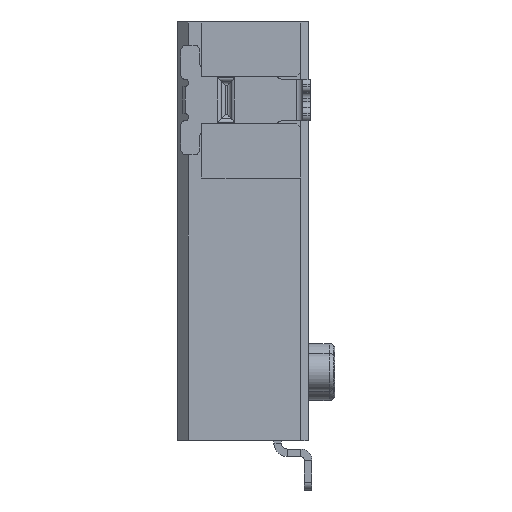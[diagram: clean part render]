
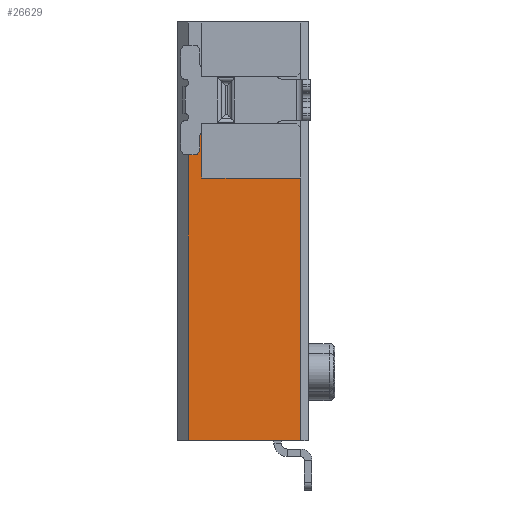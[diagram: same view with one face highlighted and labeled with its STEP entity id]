
A CAD part, left-side view. The second image highlights one B-rep face of the part: STEP entity #26629.
In plain terms, the highlighted planar face has unit normal (-1, 0, 0).
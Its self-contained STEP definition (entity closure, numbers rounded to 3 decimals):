
#586=DIRECTION('',(0.,1.,0.));
#587=VECTOR('',#586,2.95);
#588=CARTESIAN_POINT('',(-18.227,0.396,-5.5));
#589=LINE('',#588,#587);
#7909=DIRECTION('',(0.,0.,-1.));
#7910=VECTOR('',#7909,6.9);
#7911=CARTESIAN_POINT('',(-18.227,0.396,1.4));
#7912=LINE('',#7911,#7910);
#7929=DIRECTION('',(0.,0.784,0.621));
#7930=VECTOR('',#7929,0.054);
#7931=CARTESIAN_POINT('',(-18.227,2.494,2.53));
#7932=LINE('',#7931,#7930);
#7933=DIRECTION('',(0.,-1.,0.));
#7934=VECTOR('',#7933,0.502);
#7935=CARTESIAN_POINT('',(-18.227,2.996,2.53));
#7936=LINE('',#7935,#7934);
#7937=DIRECTION('',(0.,1.,0.));
#7938=VECTOR('',#7937,2.6);
#7939=CARTESIAN_POINT('',(-18.227,0.396,1.4));
#7940=LINE('',#7939,#7938);
#7941=DIRECTION('',(0.,1.,0.));
#7942=VECTOR('',#7941,0.15);
#7943=CARTESIAN_POINT('',(-18.227,3.196,2.01));
#7944=LINE('',#7943,#7942);
#7945=CARTESIAN_POINT('',(-18.227,3.196,2.16));
#7946=DIRECTION('',(1.,0.,0.));
#7947=DIRECTION('',(0.,-1.,0.));
#7948=AXIS2_PLACEMENT_3D('',#7945,#7946,#7947);
#7950=DIRECTION('',(0.,0.,-1.));
#7951=VECTOR('',#7950,0.34);
#7952=CARTESIAN_POINT('',(-18.227,3.046,2.5));
#7953=LINE('',#7952,#7951);
#7954=CARTESIAN_POINT('',(-18.227,2.896,2.5));
#7955=DIRECTION('',(-1.,0.,0.));
#7956=DIRECTION('',(0.,0.,1.));
#7957=AXIS2_PLACEMENT_3D('',#7954,#7955,#7956);
#7959=DIRECTION('',(0.,1.,0.));
#7960=VECTOR('',#7959,0.111);
#7961=CARTESIAN_POINT('',(-18.227,2.785,2.65));
#7962=LINE('',#7961,#7960);
#7963=CARTESIAN_POINT('',(-18.227,2.785,2.25));
#7964=DIRECTION('',(-1.,0.,0.));
#7965=DIRECTION('',(0.,-0.621,0.784));
#7966=AXIS2_PLACEMENT_3D('',#7963,#7964,#7965);
#8598=DIRECTION('',(0.,0.,1.));
#8599=VECTOR('',#8598,7.51);
#8600=CARTESIAN_POINT('',(-18.227,3.346,-5.5));
#8601=LINE('',#8600,#8599);
#9918=DIRECTION('',(0.,0.,-1.));
#9919=VECTOR('',#9918,1.13);
#9920=CARTESIAN_POINT('',(-18.227,2.996,2.53));
#9921=LINE('',#9920,#9919);
#11560=CARTESIAN_POINT('',(-18.227,2.494,2.53));
#11561=CARTESIAN_POINT('',(-18.227,2.537,
2.564));
#11562=VERTEX_POINT('',#11560);
#11563=VERTEX_POINT('',#11561);
#11564=CARTESIAN_POINT('',(-18.227,2.785,2.65));
#11565=VERTEX_POINT('',#11564);
#11566=CARTESIAN_POINT('',(-18.227,2.896,2.65));
#11567=VERTEX_POINT('',#11566);
#11568=CARTESIAN_POINT('',(-18.227,3.046,
2.5));
#11569=VERTEX_POINT('',#11568);
#11570=CARTESIAN_POINT('',(-18.227,3.046,2.16));
#11571=VERTEX_POINT('',#11570);
#11572=CARTESIAN_POINT('',(-18.227,3.196,2.01));
#11573=VERTEX_POINT('',#11572);
#11574=CARTESIAN_POINT('',(-18.227,3.346,2.01));
#11575=VERTEX_POINT('',#11574);
#11576=CARTESIAN_POINT('',(-18.227,3.346,-5.5));
#11577=VERTEX_POINT('',#11576);
#11578=CARTESIAN_POINT('',(-18.227,0.396,-5.5));
#11579=VERTEX_POINT('',#11578);
#11580=CARTESIAN_POINT('',(-18.227,0.396,1.4));
#11581=VERTEX_POINT('',#11580);
#11582=CARTESIAN_POINT('',(-18.227,2.996,1.4));
#11583=VERTEX_POINT('',#11582);
#11584=CARTESIAN_POINT('',(-18.227,2.996,2.53));
#11585=VERTEX_POINT('',#11584);
#26598=CARTESIAN_POINT('',(-18.227,2.996,12.5));
#26599=DIRECTION('',(-1.,0.,0.));
#26600=DIRECTION('',(0.,0.,1.));
#26601=AXIS2_PLACEMENT_3D('',#26598,#26599,#26600);
#26602=PLANE('',#26601);
#26604=ORIENTED_EDGE('',*,*,#26603,.F.);
#26606=ORIENTED_EDGE('',*,*,#26605,.F.);
#26608=ORIENTED_EDGE('',*,*,#26607,.T.);
#26610=ORIENTED_EDGE('',*,*,#26609,.F.);
#26611=ORIENTED_EDGE('',*,*,#26584,.T.);
#26612=ORIENTED_EDGE('',*,*,#14991,.T.);
#26614=ORIENTED_EDGE('',*,*,#26613,.T.);
#26616=ORIENTED_EDGE('',*,*,#26615,.F.);
#26618=ORIENTED_EDGE('',*,*,#26617,.F.);
#26620=ORIENTED_EDGE('',*,*,#26619,.F.);
#26622=ORIENTED_EDGE('',*,*,#26621,.F.);
#26624=ORIENTED_EDGE('',*,*,#26623,.F.);
#26626=ORIENTED_EDGE('',*,*,#26625,.F.);
#26627=EDGE_LOOP('',(#26604,#26606,#26608,#26610,#26611,#26612,#26614,#26616,
#26618,#26620,#26622,#26624,#26626));
#26628=FACE_OUTER_BOUND('',#26627,.F.);
#26629=ADVANCED_FACE('',(#26628),#26602,.T.);
#7949=CIRCLE('',#7948,0.15);
#7958=CIRCLE('',#7957,0.15);
#7967=CIRCLE('',#7966,0.4);
#14991=EDGE_CURVE('',#11579,#11577,#589,.T.);
#26584=EDGE_CURVE('',#11581,#11579,#7912,.T.);
#26603=EDGE_CURVE('',#11562,#11563,#7932,.T.);
#26605=EDGE_CURVE('',#11585,#11562,#7936,.T.);
#26607=EDGE_CURVE('',#11585,#11583,#9921,.T.);
#26609=EDGE_CURVE('',#11581,#11583,#7940,.T.);
#26613=EDGE_CURVE('',#11577,#11575,#8601,.T.);
#26615=EDGE_CURVE('',#11573,#11575,#7944,.T.);
#26617=EDGE_CURVE('',#11571,#11573,#7949,.T.);
#26619=EDGE_CURVE('',#11569,#11571,#7953,.T.);
#26621=EDGE_CURVE('',#11567,#11569,#7958,.T.);
#26623=EDGE_CURVE('',#11565,#11567,#7962,.T.);
#26625=EDGE_CURVE('',#11563,#11565,#7967,.T.);
